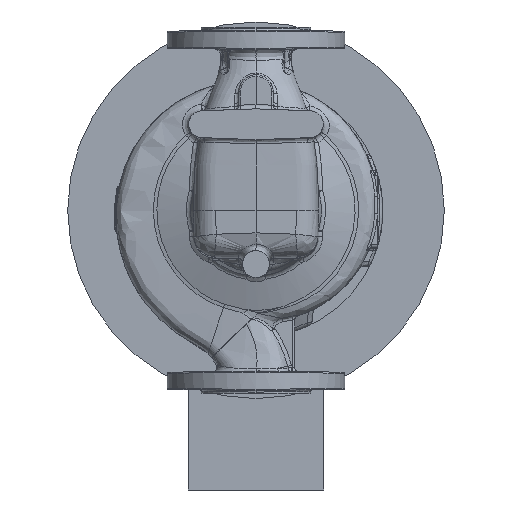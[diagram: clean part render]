
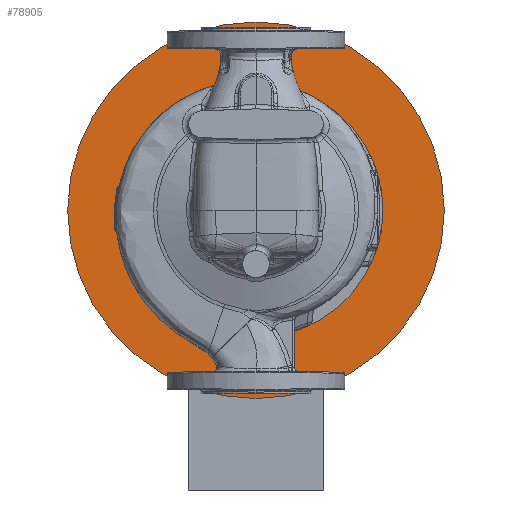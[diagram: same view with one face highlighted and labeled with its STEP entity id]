
A CAD part, front view. The second image highlights one B-rep face of the part: STEP entity #78905.
In plain terms, the highlighted planar face has unit normal (0, -1, 0).
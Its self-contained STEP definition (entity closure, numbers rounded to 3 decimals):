
#3039 = AXIS2_PLACEMENT_3D ( 'NONE', #22147, #65496, #77753 ) ;
#4500 = CIRCLE ( 'NONE', #27832, 105. ) ;
#15608 = EDGE_LOOP ( 'NONE', ( #57310, #65901 ) ) ;
#16611 = AXIS2_PLACEMENT_3D ( 'NONE', #37249, #18039, #61383 ) ;
#17906 = ORIENTED_EDGE ( 'NONE', *, *, #62992, .F. ) ;
#18039 = DIRECTION ( 'NONE',  ( 0., -1., 0. ) ) ;
#18211 = CARTESIAN_POINT ( 'NONE',  ( 0., 231.3, -175. ) ) ;
#18458 = CARTESIAN_POINT ( 'NONE',  ( 0., 231.3, 0. ) ) ;
#19743 = VERTEX_POINT ( 'NONE', #79727 ) ;
#21817 = AXIS2_PLACEMENT_3D ( 'NONE', #18458, #31925, #24966 ) ;
#22147 = CARTESIAN_POINT ( 'NONE',  ( 0., 231.3, 0. ) ) ;
#24966 = DIRECTION ( 'NONE',  ( 0., 0., -1. ) ) ;
#24976 = CARTESIAN_POINT ( 'NONE',  ( 0., 231.3, 105. ) ) ;
#26022 = PLANE ( 'NONE',  #74681 ) ;
#27689 = CARTESIAN_POINT ( 'NONE',  ( 0., 231.3, -105. ) ) ;
#27832 = AXIS2_PLACEMENT_3D ( 'NONE', #59909, #28180, #66138 ) ;
#28180 = DIRECTION ( 'NONE',  ( 0., -1., 0. ) ) ;
#30377 = EDGE_CURVE ( 'NONE', #76830, #19743, #51385, .T. ) ;
#31006 = CIRCLE ( 'NONE', #21817, 175. ) ;
#31925 = DIRECTION ( 'NONE',  ( 0., -1., 0. ) ) ;
#32228 = CARTESIAN_POINT ( 'NONE',  ( 105., 231.3, 0. ) ) ;
#34934 = CIRCLE ( 'NONE', #3039, 105. ) ;
#37249 = CARTESIAN_POINT ( 'NONE',  ( 0., 231.3, 0. ) ) ;
#42955 = FACE_BOUND ( 'NONE', #59557, .T. ) ;
#46714 = VERTEX_POINT ( 'NONE', #27689 ) ;
#50966 = ORIENTED_EDGE ( 'NONE', *, *, #57284, .F. ) ;
#51385 = CIRCLE ( 'NONE', #16611, 175. ) ;
#52645 = FACE_OUTER_BOUND ( 'NONE', #15608, .T. ) ;
#57284 = EDGE_CURVE ( 'NONE', #46714, #76913, #4500, .T. ) ;
#57310 = ORIENTED_EDGE ( 'NONE', *, *, #30377, .T. ) ;
#59557 = EDGE_LOOP ( 'NONE', ( #50966, #17906 ) ) ;
#59909 = CARTESIAN_POINT ( 'NONE',  ( 0., 231.3, 0. ) ) ;
#61383 = DIRECTION ( 'NONE',  ( 0., 0., -1. ) ) ;
#62992 = EDGE_CURVE ( 'NONE', #76913, #46714, #34934, .T. ) ;
#63150 = DIRECTION ( 'NONE',  ( 0., 0., 1. ) ) ;
#63416 = DIRECTION ( 'NONE',  ( 0., 1., 0. ) ) ;
#63822 = EDGE_CURVE ( 'NONE', #19743, #76830, #31006, .T. ) ;
#65496 = DIRECTION ( 'NONE',  ( 0., -1., 0. ) ) ;
#65901 = ORIENTED_EDGE ( 'NONE', *, *, #63822, .T. ) ;
#66138 = DIRECTION ( 'NONE',  ( 0., 0., -1. ) ) ;
#74681 = AXIS2_PLACEMENT_3D ( 'NONE', #32228, #63416, #63150 ) ;
#76830 = VERTEX_POINT ( 'NONE', #18211 ) ;
#76913 = VERTEX_POINT ( 'NONE', #24976 ) ;
#77753 = DIRECTION ( 'NONE',  ( 0., 0., -1. ) ) ;
#78905 = ADVANCED_FACE ( 'NONE', ( #42955, #52645 ), #26022, .F. ) ;
#79727 = CARTESIAN_POINT ( 'NONE',  ( 0., 231.3, 175. ) ) ;
